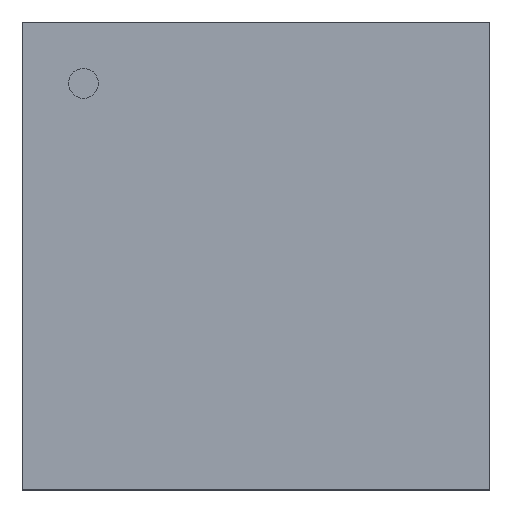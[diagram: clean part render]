
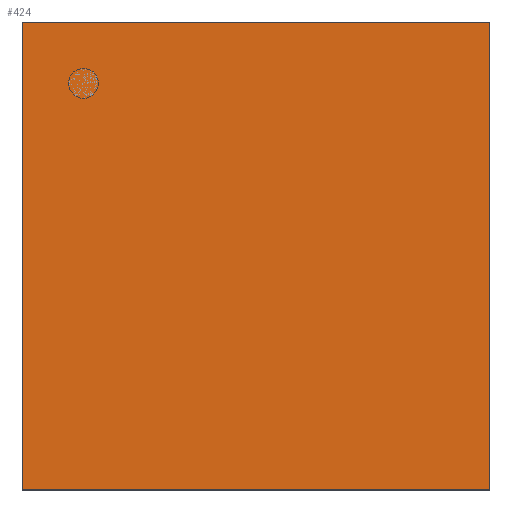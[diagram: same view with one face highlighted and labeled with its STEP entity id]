
A CAD part, top view. The second image highlights one B-rep face of the part: STEP entity #424.
In plain terms, the highlighted planar face has unit normal (0, 0, 1).
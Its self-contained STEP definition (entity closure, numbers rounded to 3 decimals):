
#110 = VERTEX_POINT('',#111);
#111 = CARTESIAN_POINT('',(-0.705,-0.705,0.49));
#118 = PLANE('',#119);
#119 = AXIS2_PLACEMENT_3D('',#120,#121,#122);
#120 = CARTESIAN_POINT('',(-0.705,-0.705,0.165));
#121 = DIRECTION('',(1.,0.,0.));
#122 = DIRECTION('',(0.,0.,1.));
#130 = PLANE('',#131);
#131 = AXIS2_PLACEMENT_3D('',#132,#133,#134);
#132 = CARTESIAN_POINT('',(-0.705,-0.705,0.165));
#133 = DIRECTION('',(0.,1.,0.));
#134 = DIRECTION('',(0.,0.,1.));
#171 = VERTEX_POINT('',#172);
#172 = CARTESIAN_POINT('',(-0.705,0.705,0.49));
#186 = PLANE('',#187);
#187 = AXIS2_PLACEMENT_3D('',#188,#189,#190);
#188 = CARTESIAN_POINT('',(-0.705,0.705,0.165));
#189 = DIRECTION('',(0.,1.,0.));
#190 = DIRECTION('',(0.,0.,1.));
#198 = EDGE_CURVE('',#110,#171,#199,.T.);
#199 = SURFACE_CURVE('',#200,(#204,#211),.PCURVE_S1.);
#200 = LINE('',#201,#202);
#201 = CARTESIAN_POINT('',(-0.705,-0.705,0.49));
#202 = VECTOR('',#203,1.);
#203 = DIRECTION('',(0.,1.,0.));
#204 = PCURVE('',#118,#205);
#205 = DEFINITIONAL_REPRESENTATION('',(#206),#210);
#206 = LINE('',#207,#208);
#207 = CARTESIAN_POINT('',(0.325,0.));
#208 = VECTOR('',#209,1.);
#209 = DIRECTION('',(0.,-1.));
#210 = ( GEOMETRIC_REPRESENTATION_CONTEXT(2) 
PARAMETRIC_REPRESENTATION_CONTEXT() REPRESENTATION_CONTEXT('2D SPACE',''
  ) );
#211 = PCURVE('',#212,#217);
#212 = PLANE('',#213);
#213 = AXIS2_PLACEMENT_3D('',#214,#215,#216);
#214 = CARTESIAN_POINT('',(-0.705,-0.705,0.49));
#215 = DIRECTION('',(0.,0.,1.));
#216 = DIRECTION('',(1.,0.,0.));
#217 = DEFINITIONAL_REPRESENTATION('',(#218),#222);
#218 = LINE('',#219,#220);
#219 = CARTESIAN_POINT('',(0.,0.));
#220 = VECTOR('',#221,1.);
#221 = DIRECTION('',(0.,1.));
#222 = ( GEOMETRIC_REPRESENTATION_CONTEXT(2) 
PARAMETRIC_REPRESENTATION_CONTEXT() REPRESENTATION_CONTEXT('2D SPACE',''
  ) );
#230 = VERTEX_POINT('',#231);
#231 = CARTESIAN_POINT('',(0.705,-0.705,0.49));
#238 = PLANE('',#239);
#239 = AXIS2_PLACEMENT_3D('',#240,#241,#242);
#240 = CARTESIAN_POINT('',(0.705,-0.705,0.165));
#241 = DIRECTION('',(1.,0.,0.));
#242 = DIRECTION('',(0.,0.,1.));
#281 = VERTEX_POINT('',#282);
#282 = CARTESIAN_POINT('',(0.705,0.705,0.49));
#303 = EDGE_CURVE('',#230,#281,#304,.T.);
#304 = SURFACE_CURVE('',#305,(#309,#316),.PCURVE_S1.);
#305 = LINE('',#306,#307);
#306 = CARTESIAN_POINT('',(0.705,-0.705,0.49));
#307 = VECTOR('',#308,1.);
#308 = DIRECTION('',(0.,1.,0.));
#309 = PCURVE('',#238,#310);
#310 = DEFINITIONAL_REPRESENTATION('',(#311),#315);
#311 = LINE('',#312,#313);
#312 = CARTESIAN_POINT('',(0.325,0.));
#313 = VECTOR('',#314,1.);
#314 = DIRECTION('',(0.,-1.));
#315 = ( GEOMETRIC_REPRESENTATION_CONTEXT(2) 
PARAMETRIC_REPRESENTATION_CONTEXT() REPRESENTATION_CONTEXT('2D SPACE',''
  ) );
#316 = PCURVE('',#212,#317);
#317 = DEFINITIONAL_REPRESENTATION('',(#318),#322);
#318 = LINE('',#319,#320);
#319 = CARTESIAN_POINT('',(1.41,0.));
#320 = VECTOR('',#321,1.);
#321 = DIRECTION('',(0.,1.));
#322 = ( GEOMETRIC_REPRESENTATION_CONTEXT(2) 
PARAMETRIC_REPRESENTATION_CONTEXT() REPRESENTATION_CONTEXT('2D SPACE',''
  ) );
#349 = EDGE_CURVE('',#110,#230,#350,.T.);
#350 = SURFACE_CURVE('',#351,(#355,#362),.PCURVE_S1.);
#351 = LINE('',#352,#353);
#352 = CARTESIAN_POINT('',(-0.705,-0.705,0.49));
#353 = VECTOR('',#354,1.);
#354 = DIRECTION('',(1.,0.,0.));
#355 = PCURVE('',#130,#356);
#356 = DEFINITIONAL_REPRESENTATION('',(#357),#361);
#357 = LINE('',#358,#359);
#358 = CARTESIAN_POINT('',(0.325,0.));
#359 = VECTOR('',#360,1.);
#360 = DIRECTION('',(0.,1.));
#361 = ( GEOMETRIC_REPRESENTATION_CONTEXT(2) 
PARAMETRIC_REPRESENTATION_CONTEXT() REPRESENTATION_CONTEXT('2D SPACE',''
  ) );
#362 = PCURVE('',#212,#363);
#363 = DEFINITIONAL_REPRESENTATION('',(#364),#368);
#364 = LINE('',#365,#366);
#365 = CARTESIAN_POINT('',(0.,0.));
#366 = VECTOR('',#367,1.);
#367 = DIRECTION('',(1.,0.));
#368 = ( GEOMETRIC_REPRESENTATION_CONTEXT(2) 
PARAMETRIC_REPRESENTATION_CONTEXT() REPRESENTATION_CONTEXT('2D SPACE',''
  ) );
#396 = EDGE_CURVE('',#171,#281,#397,.T.);
#397 = SURFACE_CURVE('',#398,(#402,#409),.PCURVE_S1.);
#398 = LINE('',#399,#400);
#399 = CARTESIAN_POINT('',(-0.705,0.705,0.49));
#400 = VECTOR('',#401,1.);
#401 = DIRECTION('',(1.,0.,0.));
#402 = PCURVE('',#186,#403);
#403 = DEFINITIONAL_REPRESENTATION('',(#404),#408);
#404 = LINE('',#405,#406);
#405 = CARTESIAN_POINT('',(0.325,0.));
#406 = VECTOR('',#407,1.);
#407 = DIRECTION('',(0.,1.));
#408 = ( GEOMETRIC_REPRESENTATION_CONTEXT(2) 
PARAMETRIC_REPRESENTATION_CONTEXT() REPRESENTATION_CONTEXT('2D SPACE',''
  ) );
#409 = PCURVE('',#212,#410);
#410 = DEFINITIONAL_REPRESENTATION('',(#411),#415);
#411 = LINE('',#412,#413);
#412 = CARTESIAN_POINT('',(0.,1.41));
#413 = VECTOR('',#414,1.);
#414 = DIRECTION('',(1.,0.));
#415 = ( GEOMETRIC_REPRESENTATION_CONTEXT(2) 
PARAMETRIC_REPRESENTATION_CONTEXT() REPRESENTATION_CONTEXT('2D SPACE',''
  ) );
#424 = ADVANCED_FACE('',(#425),#212,.T.);
#425 = FACE_BOUND('',#426,.T.);
#426 = EDGE_LOOP('',(#427,#428,#429,#430));
#427 = ORIENTED_EDGE('',*,*,#198,.F.);
#428 = ORIENTED_EDGE('',*,*,#349,.T.);
#429 = ORIENTED_EDGE('',*,*,#303,.T.);
#430 = ORIENTED_EDGE('',*,*,#396,.F.);
